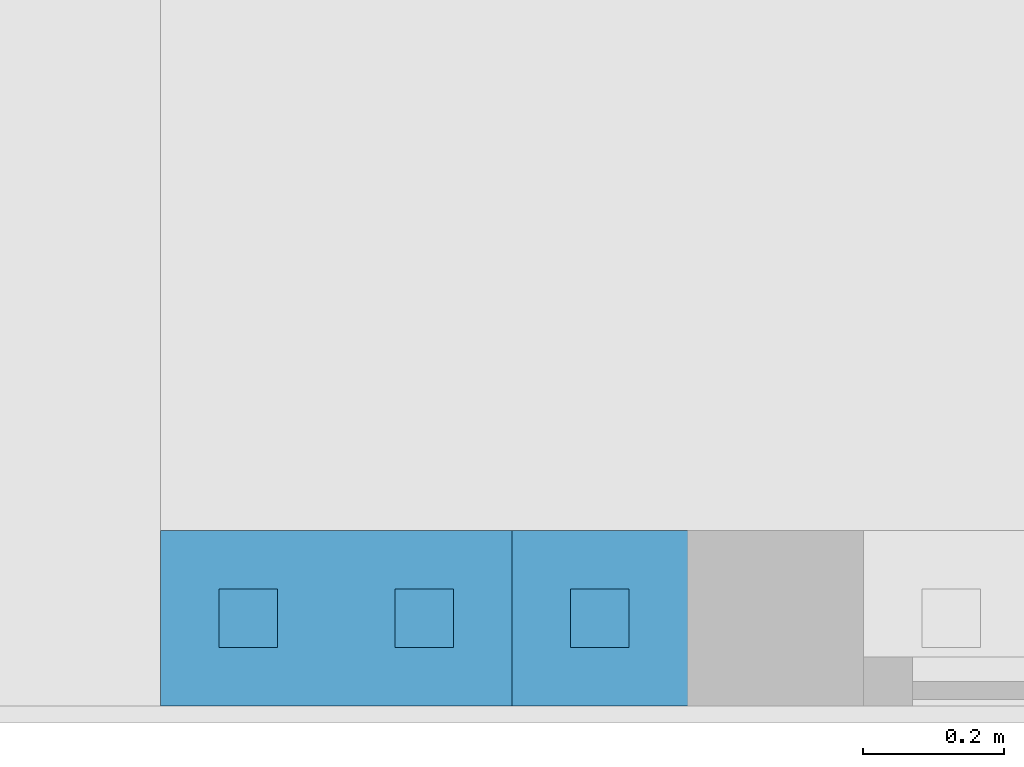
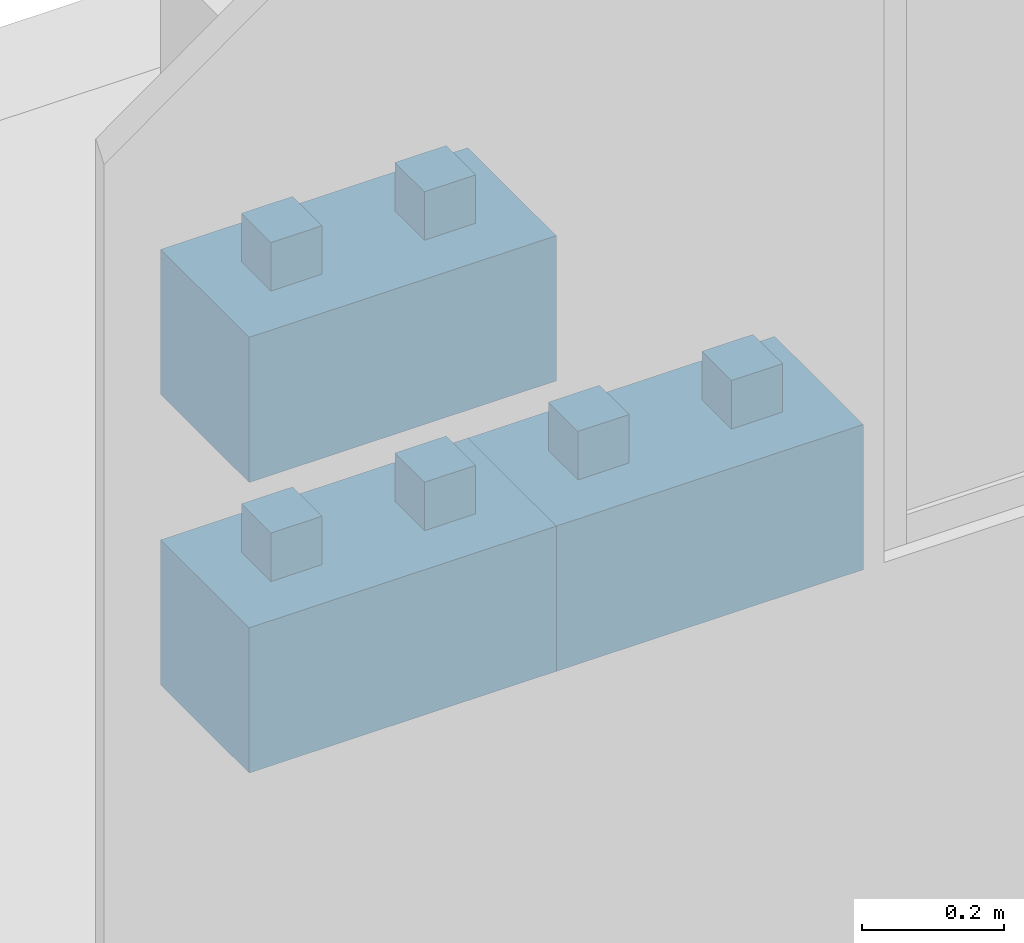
# One storey, part 4 of 9: 3 walls.
"""IFC4 building model written with IfcOpenShell, lengths in centimetres."""

from ifc_helpers import new_model, entity, si_unit, converted_unit, direction, frame, origin, place, context, subcontext, project, spatial, indexed_curve, outline, extrude, material, type_object, element, save


model = new_model("IFC4")

# Units and contexts
model_context = context("Model", 3, precision=0.001, world=origin(), true_north=direction((0.0, 1.0)))
body_context = subcontext(model_context, "Body", "Model", "MODEL_VIEW")
ifc_project = project(units=[si_unit("LENGTHUNIT", "METRE", prefix="CENTI"), si_unit("AREAUNIT", "SQUARE_METRE"), si_unit("VOLUMEUNIT", "CUBIC_METRE"), converted_unit("PLANEANGLEUNIT", "DEGREE", entity("IfcPlaneAngleMeasure", 0.017453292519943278), si_unit("PLANEANGLEUNIT", "RADIAN"), dimensions=[0, 0, 0, 0, 0, 0, 0])], contexts=[model_context])

# Site, building, storey
site_placement = place(None, origin())
site = spatial("IfcSite", under=ifc_project, at=site_placement, Name="Default", CompositionType="ELEMENT")
building_placement = place(site_placement, origin())
building = spatial("IfcBuilding", under=site, at=building_placement, CompositionType="ELEMENT")
storey_placement = place(building_placement, frame((0.0, 0.0, -4.0)))
storey = spatial("IfcBuildingStorey", under=building, at=storey_placement, Name="L00__ABOVE Slab", CompositionType="ELEMENT", Elevation=-4.000000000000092)

# Walls
ifc_material = material(Name="Miscellaneous__Timber Block__Triqbriq, X", Category="Miscellaneous")
wall_type = type_object("IfcWallType", Name="Columns : wll_s__TIMBER BLOCK__Triqbriq, Full Width__wp : WS25", PredefinedType="SOLIDWALL", material=ifc_material)
wall_1_placement = place(storey_placement, frame((2906.8289147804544, 2128.5200309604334, 150.0)))
element("IfcWall", 1, at=wall_1_placement, inside=storey, type_object=wall_type, material=ifc_material, Name="Columns : wll_s__TIMBER BLOCK__Triqbriq, Full Width__wp : WS25", PredefinedType="SOLIDWALL", context=body_context, shape_type="SweptSolid", body=[
    extrude(outline(indexed_curve([(-4.166666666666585, -4.166666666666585), (4.166666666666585, -4.166666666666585), (4.166666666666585, 4.166666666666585), (-4.166666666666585, 4.166666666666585), (-4.166666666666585, -4.166666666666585)], self_intersect=False)), frame((37.50000000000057, 12.500000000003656, 16.666666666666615), z_axis=(0.0, 0.0, 1.0), x_axis=(0.0, 1.0, 0.0)), (0.0, 0.0, 1.0), 16.66666666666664),
    extrude(outline(indexed_curve([(-4.166666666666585, -4.166666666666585), (4.166666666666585, -4.166666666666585), (4.166666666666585, 4.166666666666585), (-4.166666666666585, 4.166666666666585), (-4.166666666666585, -4.166666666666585)], self_intersect=False)), frame((12.500000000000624, 12.500000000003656, 16.666666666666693), z_axis=(0.0, 0.0, 1.0), x_axis=(0.0, 1.0, 0.0)), (0.0, 0.0, 1.0), 16.66666666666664),
    extrude(outline(indexed_curve([(-4.166666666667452, -4.166666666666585), (4.166666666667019, -4.166666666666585), (4.166666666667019, 4.166666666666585), (-4.166666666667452, 4.166666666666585), (-4.166666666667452, -4.166666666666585)], self_intersect=False)), frame((45.83333333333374, 20.83333333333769, 8.333333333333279), z_axis=(0.0, 0.0, 1.0), x_axis=(0.0, 1.0, 0.0)), (0.0, 0.0, 1.0), 8.333333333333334),
    extrude(outline(indexed_curve([(-4.166666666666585, -4.166666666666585), (4.166666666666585, -4.166666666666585), (4.166666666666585, 4.166666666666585), (-4.166666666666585, 4.166666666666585), (-4.166666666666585, -4.166666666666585)], self_intersect=False)), frame((45.83333333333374, 4.166666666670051, 8.333333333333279), z_axis=(0.0, 0.0, 1.0), x_axis=(0.0, 1.0, 0.0)), (0.0, 0.0, 1.0), 8.333333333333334),
    extrude(outline(indexed_curve([(-4.166666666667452, -4.166666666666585), (4.166666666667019, -4.166666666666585), (4.166666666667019, 4.166666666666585), (-4.166666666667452, 4.166666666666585), (-4.166666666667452, -4.166666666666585)], self_intersect=False)), frame((4.166666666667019, 20.83333333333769, 8.333333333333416), z_axis=(0.0, 0.0, 1.0), x_axis=(0.0, 1.0, 0.0)), (0.0, 0.0, 1.0), 8.333333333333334),
    extrude(outline(indexed_curve([(-4.166666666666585, -4.166666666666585), (4.166666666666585, -4.166666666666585), (4.166666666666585, 4.166666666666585), (-4.166666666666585, 4.166666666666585), (-4.166666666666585, -4.166666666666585)], self_intersect=False)), frame((4.166666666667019, 4.166666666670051, 8.333333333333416), z_axis=(0.0, 0.0, 1.0), x_axis=(0.0, 1.0, 0.0)), (0.0, 0.0, 1.0), 8.333333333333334),
    extrude(outline(indexed_curve([(-4.166666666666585, -8.33333333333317), (4.166666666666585, -8.33333333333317), (4.166666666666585, 8.333333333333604), (-4.166666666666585, 8.333333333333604), (-4.166666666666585, -8.33333333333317)], self_intersect=False)), frame((25.0, 4.166666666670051, 8.333333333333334), z_axis=(0.0, 0.0, 1.0), x_axis=(0.0, 1.0, 0.0)), (0.0, 0.0, 1.0), 8.333333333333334),
    extrude(outline(indexed_curve([(-4.166666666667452, -8.33333333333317), (4.166666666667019, -8.33333333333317), (4.166666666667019, 8.333333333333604), (-4.166666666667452, 8.333333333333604), (-4.166666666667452, -8.33333333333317)], self_intersect=False)), frame((25.0, 20.83333333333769, 8.333333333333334), z_axis=(0.0, 0.0, 1.0), x_axis=(0.0, 1.0, 0.0)), (0.0, 0.0, 1.0), 8.333333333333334),
    extrude(outline(indexed_curve([(-4.166666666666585, -24.999999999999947), (4.166666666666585, -24.999999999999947), (4.166666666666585, 24.999999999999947), (-4.166666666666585, 24.999999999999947), (-4.166666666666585, -24.999999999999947)], self_intersect=False)), frame((25.0, 12.500000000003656, 8.333333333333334), z_axis=(0.0, 0.0, 1.0), x_axis=(0.0, 1.0, 0.0)), (0.0, 0.0, 1.0), 8.333333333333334),
    extrude(outline(indexed_curve([(-12.50000000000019, -4.166666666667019), (12.500000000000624, -4.166666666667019), (12.500000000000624, 4.166666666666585), (-12.50000000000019, 4.166666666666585), (-12.50000000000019, -4.166666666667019)], self_intersect=False)), frame((29.1666666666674, 12.500000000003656, 0.0), z_axis=(0.0, 0.0, 1.0), x_axis=(0.0, 1.0, 0.0)), (0.0, 0.0, 1.0), 8.333333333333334),
    extrude(outline(indexed_curve([(-12.50000000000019, -4.166666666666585), (12.500000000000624, -4.166666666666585), (12.500000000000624, 4.166666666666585), (-12.50000000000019, 4.166666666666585), (-12.50000000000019, -4.166666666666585)], self_intersect=False)), frame((20.833333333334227, 12.500000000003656, 0.0), z_axis=(0.0, 0.0, 1.0), x_axis=(0.0, 1.0, 0.0)), (0.0, 0.0, 1.0), 8.333333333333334),
    extrude(outline(indexed_curve([(-12.50000000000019, -4.166666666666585), (12.500000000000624, -4.166666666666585), (12.500000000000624, 4.166666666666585), (-12.50000000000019, 4.166666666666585), (-12.50000000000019, -4.166666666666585)], self_intersect=False)), frame((45.833333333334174, 12.500000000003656, 0.0), z_axis=(0.0, 0.0, 1.0), x_axis=(0.0, 1.0, 0.0)), (0.0, 0.0, 1.0), 8.333333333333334),
    extrude(outline(indexed_curve([(-12.50000000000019, -4.166666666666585), (12.500000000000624, -4.166666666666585), (12.500000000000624, 4.166666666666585), (-12.50000000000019, 4.166666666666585), (-12.50000000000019, -4.166666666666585)], self_intersect=False)), frame((4.166666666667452, 12.500000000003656, 0.0), z_axis=(0.0, 0.0, 1.0), x_axis=(0.0, 1.0, 0.0)), (0.0, 0.0, 1.0), 8.333333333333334),
    extrude(outline(indexed_curve([(-4.166666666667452, -4.166666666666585), (4.166666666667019, -4.166666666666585), (4.166666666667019, 4.166666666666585), (-4.166666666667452, 4.166666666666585), (-4.166666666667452, -4.166666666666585)], self_intersect=False)), frame((37.500000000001, 20.83333333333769, 0.0), z_axis=(0.0, 0.0, 1.0), x_axis=(0.0, 1.0, 0.0)), (0.0, 0.0, 1.0), 24.999999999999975),
    extrude(outline(indexed_curve([(-4.166666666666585, -4.166666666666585), (4.166666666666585, -4.166666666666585), (4.166666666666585, 4.166666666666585), (-4.166666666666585, 4.166666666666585), (-4.166666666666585, -4.166666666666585)], self_intersect=False)), frame((37.500000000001, 4.166666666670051, 0.0), z_axis=(0.0, 0.0, 1.0), x_axis=(0.0, 1.0, 0.0)), (0.0, 0.0, 1.0), 24.999999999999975),
    extrude(outline(indexed_curve([(-4.166666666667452, -4.166666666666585), (4.166666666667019, -4.166666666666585), (4.166666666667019, 4.166666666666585), (-4.166666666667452, 4.166666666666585), (-4.166666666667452, -4.166666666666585)], self_intersect=False)), frame((12.500000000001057, 20.83333333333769, 0.0), z_axis=(0.0, 0.0, 1.0), x_axis=(0.0, 1.0, 0.0)), (0.0, 0.0, 1.0), 24.999999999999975),
    extrude(outline(indexed_curve([(-4.166666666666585, -4.166666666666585), (4.166666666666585, -4.166666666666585), (4.166666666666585, 4.166666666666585), (-4.166666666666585, 4.166666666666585), (-4.166666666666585, -4.166666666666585)], self_intersect=False)), frame((12.500000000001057, 4.166666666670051, 0.0), z_axis=(0.0, 0.0, 1.0), x_axis=(0.0, 1.0, 0.0)), (0.0, 0.0, 1.0), 24.999999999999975),
    extrude(outline(indexed_curve([(-12.50000000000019, -4.166666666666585), (12.500000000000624, -4.166666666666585), (12.500000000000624, 4.166666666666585), (-12.50000000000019, 4.166666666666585), (-12.50000000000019, -4.166666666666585)], self_intersect=False)), frame((45.83333333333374, 12.500000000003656, 16.666666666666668), z_axis=(0.0, 0.0, 1.0), x_axis=(0.0, 1.0, 0.0)), (0.0, 0.0, 1.0), 8.333333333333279),
    extrude(outline(indexed_curve([(-12.50000000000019, -4.166666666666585), (12.500000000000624, -4.166666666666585), (12.500000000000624, 4.166666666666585), (-12.50000000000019, 4.166666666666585), (-12.50000000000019, -4.166666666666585)], self_intersect=False)), frame((29.1666666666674, 12.500000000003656, 16.666666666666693), z_axis=(0.0, 0.0, 1.0), x_axis=(0.0, 1.0, 0.0)), (0.0, 0.0, 1.0), 8.333333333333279),
    extrude(outline(indexed_curve([(-12.50000000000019, -4.166666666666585), (12.500000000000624, -4.166666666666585), (12.500000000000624, 4.166666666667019), (-12.50000000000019, 4.166666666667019), (-12.50000000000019, -4.166666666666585)], self_intersect=False)), frame((20.833333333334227, 12.500000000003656, 16.66666666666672), z_axis=(0.0, 0.0, 1.0), x_axis=(0.0, 1.0, 0.0)), (0.0, 0.0, 1.0), 8.333333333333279),
    extrude(outline(indexed_curve([(-12.50000000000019, -4.166666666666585), (12.500000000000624, -4.166666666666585), (12.500000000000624, 4.166666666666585), (-12.50000000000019, 4.166666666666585), (-12.50000000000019, -4.166666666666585)], self_intersect=False)), frame((4.166666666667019, 12.500000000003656, 16.666666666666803), z_axis=(0.0, 0.0, 1.0), x_axis=(0.0, 1.0, 0.0)), (0.0, 0.0, 1.0), 8.333333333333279),
])
wall_2_placement = place(storey_placement, frame((2956.828914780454, 2128.5200309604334, 100.0)))
element("IfcWall", 2, at=wall_2_placement, inside=storey, type_object=wall_type, material=ifc_material, Name="Columns : wll_s__TIMBER BLOCK__Triqbriq, Full Width__wp : WS25", PredefinedType="SOLIDWALL", context=body_context, shape_type="SweptSolid", body=[
    extrude(outline(indexed_curve([(-4.166666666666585, -4.166666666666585), (4.166666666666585, -4.166666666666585), (4.166666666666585, 4.166666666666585), (-4.166666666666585, 4.166666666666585), (-4.166666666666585, -4.166666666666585)], self_intersect=False)), frame((37.50000000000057, 12.500000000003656, 16.66666666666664), z_axis=(0.0, 0.0, 1.0), x_axis=(0.0, 1.0, 0.0)), (0.0, 0.0, 1.0), 16.6666666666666),
    extrude(outline(indexed_curve([(-4.166666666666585, -4.166666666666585), (4.166666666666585, -4.166666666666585), (4.166666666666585, 4.166666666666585), (-4.166666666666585, 4.166666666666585), (-4.166666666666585, -4.166666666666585)], self_intersect=False)), frame((12.500000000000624, 12.500000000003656, 16.666666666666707), z_axis=(0.0, 0.0, 1.0), x_axis=(0.0, 1.0, 0.0)), (0.0, 0.0, 1.0), 16.6666666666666),
    extrude(outline(indexed_curve([(-4.166666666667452, -4.166666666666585), (4.166666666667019, -4.166666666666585), (4.166666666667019, 4.166666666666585), (-4.166666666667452, 4.166666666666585), (-4.166666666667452, -4.166666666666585)], self_intersect=False)), frame((45.83333333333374, 20.83333333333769, 8.333333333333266), z_axis=(0.0, 0.0, 1.0), x_axis=(0.0, 1.0, 0.0)), (0.0, 0.0, 1.0), 8.333333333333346),
    extrude(outline(indexed_curve([(-4.166666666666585, -4.166666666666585), (4.166666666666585, -4.166666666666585), (4.166666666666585, 4.166666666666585), (-4.166666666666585, 4.166666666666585), (-4.166666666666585, -4.166666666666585)], self_intersect=False)), frame((45.83333333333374, 4.166666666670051, 8.333333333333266), z_axis=(0.0, 0.0, 1.0), x_axis=(0.0, 1.0, 0.0)), (0.0, 0.0, 1.0), 8.333333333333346),
    extrude(outline(indexed_curve([(-4.166666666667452, -4.166666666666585), (4.166666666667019, -4.166666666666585), (4.166666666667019, 4.166666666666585), (-4.166666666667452, 4.166666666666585), (-4.166666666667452, -4.166666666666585)], self_intersect=False)), frame((4.166666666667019, 20.83333333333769, 8.333333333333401), z_axis=(0.0, 0.0, 1.0), x_axis=(0.0, 1.0, 0.0)), (0.0, 0.0, 1.0), 8.333333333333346),
    extrude(outline(indexed_curve([(-4.166666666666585, -4.166666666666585), (4.166666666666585, -4.166666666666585), (4.166666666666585, 4.166666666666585), (-4.166666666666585, 4.166666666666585), (-4.166666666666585, -4.166666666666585)], self_intersect=False)), frame((4.166666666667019, 4.166666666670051, 8.333333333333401), z_axis=(0.0, 0.0, 1.0), x_axis=(0.0, 1.0, 0.0)), (0.0, 0.0, 1.0), 8.333333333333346),
    extrude(outline(indexed_curve([(-4.166666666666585, -8.333333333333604), (4.166666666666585, -8.333333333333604), (4.166666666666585, 8.33333333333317), (-4.166666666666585, 8.33333333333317), (-4.166666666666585, -8.333333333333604)], self_intersect=False)), frame((25.0, 4.166666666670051, 8.333333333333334), z_axis=(0.0, 0.0, 1.0), x_axis=(0.0, 1.0, 0.0)), (0.0, 0.0, 1.0), 8.333333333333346),
    extrude(outline(indexed_curve([(-4.166666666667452, -8.333333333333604), (4.166666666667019, -8.333333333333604), (4.166666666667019, 8.33333333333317), (-4.166666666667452, 8.33333333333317), (-4.166666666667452, -8.333333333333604)], self_intersect=False)), frame((25.0, 20.83333333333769, 8.333333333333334), z_axis=(0.0, 0.0, 1.0), x_axis=(0.0, 1.0, 0.0)), (0.0, 0.0, 1.0), 8.333333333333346),
    extrude(outline(indexed_curve([(-4.166666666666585, -24.999999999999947), (4.166666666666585, -24.999999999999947), (4.166666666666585, 24.999999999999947), (-4.166666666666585, 24.999999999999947), (-4.166666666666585, -24.999999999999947)], self_intersect=False)), frame((25.0, 12.500000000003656, 8.333333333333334), z_axis=(0.0, 0.0, 1.0), x_axis=(0.0, 1.0, 0.0)), (0.0, 0.0, 1.0), 8.333333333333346),
    extrude(outline(indexed_curve([(-12.50000000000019, -4.166666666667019), (12.500000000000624, -4.166666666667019), (12.500000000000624, 4.166666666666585), (-12.50000000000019, 4.166666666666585), (-12.50000000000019, -4.166666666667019)], self_intersect=False)), frame((29.1666666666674, 12.500000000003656, 0.0), z_axis=(0.0, 0.0, 1.0), x_axis=(0.0, 1.0, 0.0)), (0.0, 0.0, 1.0), 8.333333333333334),
    extrude(outline(indexed_curve([(-12.50000000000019, -4.166666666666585), (12.500000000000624, -4.166666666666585), (12.500000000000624, 4.166666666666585), (-12.50000000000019, 4.166666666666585), (-12.50000000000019, -4.166666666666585)], self_intersect=False)), frame((20.833333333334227, 12.500000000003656, 0.0), z_axis=(0.0, 0.0, 1.0), x_axis=(0.0, 1.0, 0.0)), (0.0, 0.0, 1.0), 8.333333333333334),
    extrude(outline(indexed_curve([(-12.50000000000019, -4.166666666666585), (12.500000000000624, -4.166666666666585), (12.500000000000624, 4.166666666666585), (-12.50000000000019, 4.166666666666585), (-12.50000000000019, -4.166666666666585)], self_intersect=False)), frame((45.833333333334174, 12.500000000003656, 0.0), z_axis=(0.0, 0.0, 1.0), x_axis=(0.0, 1.0, 0.0)), (0.0, 0.0, 1.0), 8.333333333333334),
    extrude(outline(indexed_curve([(-12.50000000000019, -4.166666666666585), (12.500000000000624, -4.166666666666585), (12.500000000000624, 4.166666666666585), (-12.50000000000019, 4.166666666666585), (-12.50000000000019, -4.166666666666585)], self_intersect=False)), frame((4.166666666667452, 12.500000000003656, 0.0), z_axis=(0.0, 0.0, 1.0), x_axis=(0.0, 1.0, 0.0)), (0.0, 0.0, 1.0), 8.333333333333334),
    extrude(outline(indexed_curve([(-4.166666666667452, -4.166666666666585), (4.166666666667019, -4.166666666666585), (4.166666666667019, 4.166666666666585), (-4.166666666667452, 4.166666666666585), (-4.166666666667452, -4.166666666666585)], self_intersect=False)), frame((37.500000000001, 20.83333333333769, 0.0), z_axis=(0.0, 0.0, 1.0), x_axis=(0.0, 1.0, 0.0)), (0.0, 0.0, 1.0), 24.999999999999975),
    extrude(outline(indexed_curve([(-4.166666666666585, -4.166666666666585), (4.166666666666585, -4.166666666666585), (4.166666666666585, 4.166666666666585), (-4.166666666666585, 4.166666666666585), (-4.166666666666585, -4.166666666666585)], self_intersect=False)), frame((37.500000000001, 4.166666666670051, 0.0), z_axis=(0.0, 0.0, 1.0), x_axis=(0.0, 1.0, 0.0)), (0.0, 0.0, 1.0), 24.999999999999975),
    extrude(outline(indexed_curve([(-4.166666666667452, -4.166666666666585), (4.166666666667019, -4.166666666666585), (4.166666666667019, 4.166666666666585), (-4.166666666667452, 4.166666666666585), (-4.166666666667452, -4.166666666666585)], self_intersect=False)), frame((12.500000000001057, 20.83333333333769, 0.0), z_axis=(0.0, 0.0, 1.0), x_axis=(0.0, 1.0, 0.0)), (0.0, 0.0, 1.0), 24.999999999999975),
    extrude(outline(indexed_curve([(-4.166666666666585, -4.166666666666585), (4.166666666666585, -4.166666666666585), (4.166666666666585, 4.166666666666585), (-4.166666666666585, 4.166666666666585), (-4.166666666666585, -4.166666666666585)], self_intersect=False)), frame((12.500000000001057, 4.166666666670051, 0.0), z_axis=(0.0, 0.0, 1.0), x_axis=(0.0, 1.0, 0.0)), (0.0, 0.0, 1.0), 24.999999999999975),
    extrude(outline(indexed_curve([(-12.50000000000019, -4.166666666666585), (12.500000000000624, -4.166666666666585), (12.500000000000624, 4.166666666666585), (-12.50000000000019, 4.166666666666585), (-12.50000000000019, -4.166666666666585)], self_intersect=False)), frame((45.83333333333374, 12.500000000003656, 16.66666666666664), z_axis=(0.0, 0.0, 1.0), x_axis=(0.0, 1.0, 0.0)), (0.0, 0.0, 1.0), 8.333333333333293),
    extrude(outline(indexed_curve([(-12.50000000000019, -4.166666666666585), (12.500000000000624, -4.166666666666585), (12.500000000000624, 4.166666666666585), (-12.50000000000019, 4.166666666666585), (-12.50000000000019, -4.166666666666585)], self_intersect=False)), frame((29.1666666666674, 12.500000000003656, 16.666666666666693), z_axis=(0.0, 0.0, 1.0), x_axis=(0.0, 1.0, 0.0)), (0.0, 0.0, 1.0), 8.333333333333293),
    extrude(outline(indexed_curve([(-12.50000000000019, -4.166666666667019), (12.500000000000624, -4.166666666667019), (12.500000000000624, 4.166666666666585), (-12.50000000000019, 4.166666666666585), (-12.50000000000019, -4.166666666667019)], self_intersect=False)), frame((20.833333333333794, 12.500000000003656, 16.666666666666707), z_axis=(0.0, 0.0, 1.0), x_axis=(0.0, 1.0, 0.0)), (0.0, 0.0, 1.0), 8.333333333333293),
    extrude(outline(indexed_curve([(-12.50000000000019, -4.166666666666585), (12.500000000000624, -4.166666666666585), (12.500000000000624, 4.166666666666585), (-12.50000000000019, 4.166666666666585), (-12.50000000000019, -4.166666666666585)], self_intersect=False)), frame((4.166666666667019, 12.500000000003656, 16.66666666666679), z_axis=(0.0, 0.0, 1.0), x_axis=(0.0, 1.0, 0.0)), (0.0, 0.0, 1.0), 8.333333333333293),
])
wall_3_placement = place(storey_placement, frame((2906.8289147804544, 2128.5200309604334, 100.0)))
element("IfcWall", 3, at=wall_3_placement, inside=storey, type_object=wall_type, material=ifc_material, Name="Columns : wll_s__TIMBER BLOCK__Triqbriq, Full Width__wp : WS25", PredefinedType="SOLIDWALL", context=body_context, shape_type="SweptSolid", body=[
    extrude(outline(indexed_curve([(-4.166666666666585, -4.166666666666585), (4.166666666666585, -4.166666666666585), (4.166666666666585, 4.166666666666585), (-4.166666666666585, 4.166666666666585), (-4.166666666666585, -4.166666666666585)], self_intersect=False)), frame((37.50000000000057, 12.500000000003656, 16.666666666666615), z_axis=(0.0, 0.0, 1.0), x_axis=(0.0, 1.0, 0.0)), (0.0, 0.0, 1.0), 16.666666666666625),
    extrude(outline(indexed_curve([(-4.166666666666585, -4.166666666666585), (4.166666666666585, -4.166666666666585), (4.166666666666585, 4.166666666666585), (-4.166666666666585, 4.166666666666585), (-4.166666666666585, -4.166666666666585)], self_intersect=False)), frame((12.500000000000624, 12.500000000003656, 16.666666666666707), z_axis=(0.0, 0.0, 1.0), x_axis=(0.0, 1.0, 0.0)), (0.0, 0.0, 1.0), 16.666666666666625),
    extrude(outline(indexed_curve([(-4.166666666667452, -4.166666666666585), (4.166666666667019, -4.166666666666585), (4.166666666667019, 4.166666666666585), (-4.166666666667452, 4.166666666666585), (-4.166666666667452, -4.166666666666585)], self_intersect=False)), frame((45.83333333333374, 20.83333333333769, 8.333333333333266), z_axis=(0.0, 0.0, 1.0), x_axis=(0.0, 1.0, 0.0)), (0.0, 0.0, 1.0), 8.333333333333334),
    extrude(outline(indexed_curve([(-4.166666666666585, -4.166666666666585), (4.166666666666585, -4.166666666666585), (4.166666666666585, 4.166666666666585), (-4.166666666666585, 4.166666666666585), (-4.166666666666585, -4.166666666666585)], self_intersect=False)), frame((45.83333333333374, 4.166666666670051, 8.333333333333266), z_axis=(0.0, 0.0, 1.0), x_axis=(0.0, 1.0, 0.0)), (0.0, 0.0, 1.0), 8.333333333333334),
    extrude(outline(indexed_curve([(-4.166666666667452, -4.166666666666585), (4.166666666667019, -4.166666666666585), (4.166666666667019, 4.166666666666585), (-4.166666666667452, 4.166666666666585), (-4.166666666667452, -4.166666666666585)], self_intersect=False)), frame((4.166666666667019, 20.83333333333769, 8.333333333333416), z_axis=(0.0, 0.0, 1.0), x_axis=(0.0, 1.0, 0.0)), (0.0, 0.0, 1.0), 8.333333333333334),
    extrude(outline(indexed_curve([(-4.166666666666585, -4.166666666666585), (4.166666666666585, -4.166666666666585), (4.166666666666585, 4.166666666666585), (-4.166666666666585, 4.166666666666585), (-4.166666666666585, -4.166666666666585)], self_intersect=False)), frame((4.166666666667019, 4.166666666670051, 8.333333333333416), z_axis=(0.0, 0.0, 1.0), x_axis=(0.0, 1.0, 0.0)), (0.0, 0.0, 1.0), 8.333333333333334),
    extrude(outline(indexed_curve([(-4.166666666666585, -8.33333333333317), (4.166666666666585, -8.33333333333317), (4.166666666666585, 8.333333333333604), (-4.166666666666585, 8.333333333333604), (-4.166666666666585, -8.33333333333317)], self_intersect=False)), frame((25.0, 4.166666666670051, 8.333333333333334), z_axis=(0.0, 0.0, 1.0), x_axis=(0.0, 1.0, 0.0)), (0.0, 0.0, 1.0), 8.333333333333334),
    extrude(outline(indexed_curve([(-4.166666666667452, -8.33333333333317), (4.166666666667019, -8.33333333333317), (4.166666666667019, 8.333333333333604), (-4.166666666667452, 8.333333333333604), (-4.166666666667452, -8.33333333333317)], self_intersect=False)), frame((25.0, 20.83333333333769, 8.333333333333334), z_axis=(0.0, 0.0, 1.0), x_axis=(0.0, 1.0, 0.0)), (0.0, 0.0, 1.0), 8.333333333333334),
    extrude(outline(indexed_curve([(-4.166666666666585, -24.999999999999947), (4.166666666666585, -24.999999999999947), (4.166666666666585, 24.999999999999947), (-4.166666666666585, 24.999999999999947), (-4.166666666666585, -24.999999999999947)], self_intersect=False)), frame((25.0, 12.500000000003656, 8.333333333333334), z_axis=(0.0, 0.0, 1.0), x_axis=(0.0, 1.0, 0.0)), (0.0, 0.0, 1.0), 8.333333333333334),
    extrude(outline(indexed_curve([(-12.50000000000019, -4.166666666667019), (12.500000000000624, -4.166666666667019), (12.500000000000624, 4.166666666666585), (-12.50000000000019, 4.166666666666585), (-12.50000000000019, -4.166666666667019)], self_intersect=False)), frame((29.1666666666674, 12.500000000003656, 0.0), z_axis=(0.0, 0.0, 1.0), x_axis=(0.0, 1.0, 0.0)), (0.0, 0.0, 1.0), 8.333333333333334),
    extrude(outline(indexed_curve([(-12.50000000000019, -4.166666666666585), (12.500000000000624, -4.166666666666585), (12.500000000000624, 4.166666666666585), (-12.50000000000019, 4.166666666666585), (-12.50000000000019, -4.166666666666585)], self_intersect=False)), frame((20.833333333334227, 12.500000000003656, 0.0), z_axis=(0.0, 0.0, 1.0), x_axis=(0.0, 1.0, 0.0)), (0.0, 0.0, 1.0), 8.333333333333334),
    extrude(outline(indexed_curve([(-12.50000000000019, -4.166666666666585), (12.500000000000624, -4.166666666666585), (12.500000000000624, 4.166666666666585), (-12.50000000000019, 4.166666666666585), (-12.50000000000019, -4.166666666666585)], self_intersect=False)), frame((45.833333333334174, 12.500000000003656, 0.0), z_axis=(0.0, 0.0, 1.0), x_axis=(0.0, 1.0, 0.0)), (0.0, 0.0, 1.0), 8.333333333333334),
    extrude(outline(indexed_curve([(-12.50000000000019, -4.166666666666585), (12.500000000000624, -4.166666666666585), (12.500000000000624, 4.166666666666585), (-12.50000000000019, 4.166666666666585), (-12.50000000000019, -4.166666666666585)], self_intersect=False)), frame((4.166666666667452, 12.500000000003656, 0.0), z_axis=(0.0, 0.0, 1.0), x_axis=(0.0, 1.0, 0.0)), (0.0, 0.0, 1.0), 8.333333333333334),
    extrude(outline(indexed_curve([(-4.166666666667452, -4.166666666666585), (4.166666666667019, -4.166666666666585), (4.166666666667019, 4.166666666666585), (-4.166666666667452, 4.166666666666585), (-4.166666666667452, -4.166666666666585)], self_intersect=False)), frame((37.500000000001, 20.83333333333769, 0.0), z_axis=(0.0, 0.0, 1.0), x_axis=(0.0, 1.0, 0.0)), (0.0, 0.0, 1.0), 24.999999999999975),
    extrude(outline(indexed_curve([(-4.166666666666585, -4.166666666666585), (4.166666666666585, -4.166666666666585), (4.166666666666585, 4.166666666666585), (-4.166666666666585, 4.166666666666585), (-4.166666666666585, -4.166666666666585)], self_intersect=False)), frame((37.500000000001, 4.166666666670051, 0.0), z_axis=(0.0, 0.0, 1.0), x_axis=(0.0, 1.0, 0.0)), (0.0, 0.0, 1.0), 24.999999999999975),
    extrude(outline(indexed_curve([(-4.166666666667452, -4.166666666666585), (4.166666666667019, -4.166666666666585), (4.166666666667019, 4.166666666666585), (-4.166666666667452, 4.166666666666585), (-4.166666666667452, -4.166666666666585)], self_intersect=False)), frame((12.500000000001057, 20.83333333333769, 0.0), z_axis=(0.0, 0.0, 1.0), x_axis=(0.0, 1.0, 0.0)), (0.0, 0.0, 1.0), 24.999999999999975),
    extrude(outline(indexed_curve([(-4.166666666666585, -4.166666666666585), (4.166666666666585, -4.166666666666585), (4.166666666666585, 4.166666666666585), (-4.166666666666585, 4.166666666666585), (-4.166666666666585, -4.166666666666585)], self_intersect=False)), frame((12.500000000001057, 4.166666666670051, 0.0), z_axis=(0.0, 0.0, 1.0), x_axis=(0.0, 1.0, 0.0)), (0.0, 0.0, 1.0), 24.999999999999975),
    extrude(outline(indexed_curve([(-12.50000000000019, -4.166666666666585), (12.500000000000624, -4.166666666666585), (12.500000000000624, 4.166666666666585), (-12.50000000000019, 4.166666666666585), (-12.50000000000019, -4.166666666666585)], self_intersect=False)), frame((45.83333333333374, 12.500000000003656, 16.666666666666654), z_axis=(0.0, 0.0, 1.0), x_axis=(0.0, 1.0, 0.0)), (0.0, 0.0, 1.0), 8.333333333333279),
    extrude(outline(indexed_curve([(-12.50000000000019, -4.166666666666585), (12.500000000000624, -4.166666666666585), (12.500000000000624, 4.166666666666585), (-12.50000000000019, 4.166666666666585), (-12.50000000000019, -4.166666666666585)], self_intersect=False)), frame((29.1666666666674, 12.500000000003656, 16.666666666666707), z_axis=(0.0, 0.0, 1.0), x_axis=(0.0, 1.0, 0.0)), (0.0, 0.0, 1.0), 8.333333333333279),
    extrude(outline(indexed_curve([(-12.50000000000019, -4.166666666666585), (12.500000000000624, -4.166666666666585), (12.500000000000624, 4.166666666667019), (-12.50000000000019, 4.166666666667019), (-12.50000000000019, -4.166666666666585)], self_intersect=False)), frame((20.833333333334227, 12.500000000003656, 16.66666666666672), z_axis=(0.0, 0.0, 1.0), x_axis=(0.0, 1.0, 0.0)), (0.0, 0.0, 1.0), 8.333333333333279),
    extrude(outline(indexed_curve([(-12.50000000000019, -4.166666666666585), (12.500000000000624, -4.166666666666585), (12.500000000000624, 4.166666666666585), (-12.50000000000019, 4.166666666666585), (-12.50000000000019, -4.166666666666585)], self_intersect=False)), frame((4.166666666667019, 12.500000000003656, 16.666666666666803), z_axis=(0.0, 0.0, 1.0), x_axis=(0.0, 1.0, 0.0)), (0.0, 0.0, 1.0), 8.333333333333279),
])

save(model, "model.ifc")
